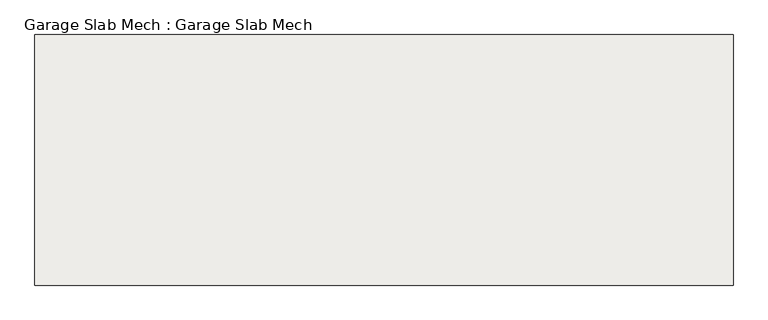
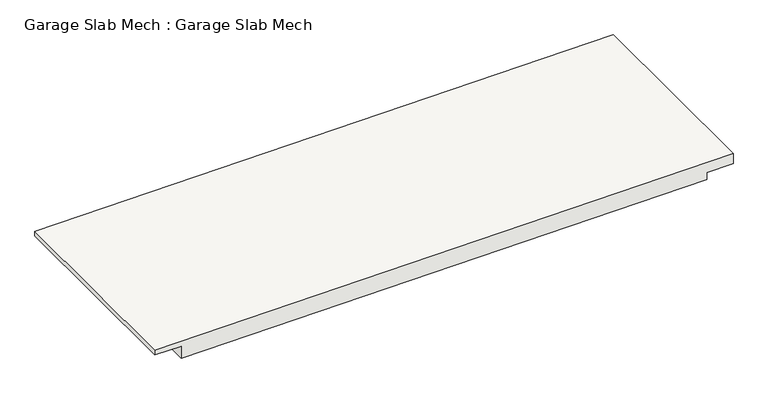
"""IFC4 building model written with IfcOpenShell, lengths in millimetres: slab geometry, Garage Slab Mech : Garage Slab Mech."""

from ifc_helpers import new_model, si_unit, origin, place, context, project, spatial, faceted_brep, source, transform, mapped, element, save


def garage_slab_mech_garage_slab_mech_65c9a7b7(model_context):
    return source(origin(), model_context, "Body", "Brep", [
        faceted_brep([(-12656.4678637, 12492.5349287, -380.5146315), (-9608.4678637, 12492.5349287, -350.017921), (-9608.4678637, 11441.3883247, -350.017921), (-12656.4678637, 11441.3883247, -380.5146315), (-9456.0678637, 12644.9349287, -246.888), (-12808.8678637, 12644.9349287, -280.4343816), (-12808.8678637, 11441.3883247, -280.4343816), (-9456.0678637, 11441.3883247, -246.888), (-9456.0678637, 12644.9349287, -307.975), (-9456.0678637, 11441.3883247, -307.975), (-9608.4678637, 12492.5349287, -318.0567253), (-9608.4678637, 12492.5349287, -307.975), (-9608.4678637, 11441.3883247, -307.975), (-9608.4678637, 11441.3883247, -318.0567253), (-12656.4678637, 12492.5349287, -307.975), (-12656.4678637, 12492.5349287, -318.0567253), (-12656.4678637, 11441.3883247, -318.0567253), (-12656.4678637, 11441.3883247, -307.975), (-12808.8678637, 12644.9349287, -307.975), (-12808.8678637, 11441.3883247, -307.975)], [[[0, 1, 2, 3]], [[4, 5, 6, 7]], [[8, 4, 7, 9]], [[1, 10, 11, 12, 13, 2]], [[14, 11, 10, 1, 0, 15]], [[14, 15, 0, 3, 16, 17]], [[8, 18, 5, 4]], [[5, 18, 19, 6]], [[3, 2, 13, 12, 9, 7, 6, 19, 17, 16]], [[11, 14, 17, 19, 18, 8, 9, 12]]]),
    ])


if __name__ == "__main__":
    model = new_model("IFC4")
    model_context = context("Model", 3, world=origin())
    ifc_project = project(units=[si_unit("LENGTHUNIT", "METRE", prefix="MILLI")], contexts=[model_context])
    site = spatial("IfcSite", under=ifc_project)
    building = spatial("IfcBuilding", under=site)
    placement = place(None, origin())
    garage_slab_mech_garage_slab_mech_shape = garage_slab_mech_garage_slab_mech_65c9a7b7(model_context)
    element("IfcSlab", 1, ObjectType="Garage Slab Mech : Garage Slab Mech", at=placement, inside=building, context=model_context, shape_type="MappedRepresentation", body=[
        mapped(garage_slab_mech_garage_slab_mech_shape, transform((0.0, 0.0, 0.0), x_axis=(1.0, 0.0, 0.0), y_axis=(0.0, 1.0, 0.0), z_axis=(0.0, 0.0, 1.0))),
    ])
    save(model, "model.ifc")
